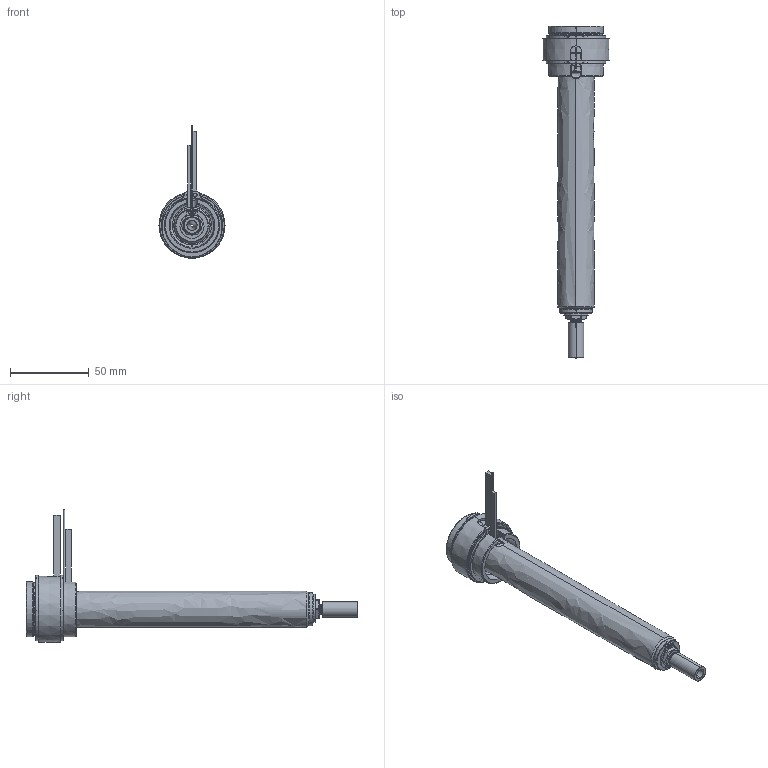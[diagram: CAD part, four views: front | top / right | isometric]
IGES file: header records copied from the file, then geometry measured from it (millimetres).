
Start section: SolidWorks IGES file using analytic representation for surfaces
Global section: file name: C:\Users\luca.EMPAD\Desktop\TEM\UGBE3504-S-A-P-5 [Ød-1.5 P-20 ØC-7.0].IGS; native system: SolidWorks 2012; preprocessor: SolidWorks 2012; author: luca; date: 120330.140636; units: millimetre
Bounding box: 42 x 211 x 84.4 mm (x, y, z)
Surface area: 36739.2 mm2 (no closed solid volume)
Topology: 0 solids, 0 shells, 189 faces, 3450 edges, 3450 vertices
Faces by surface type: revolution 122, bspline 67
